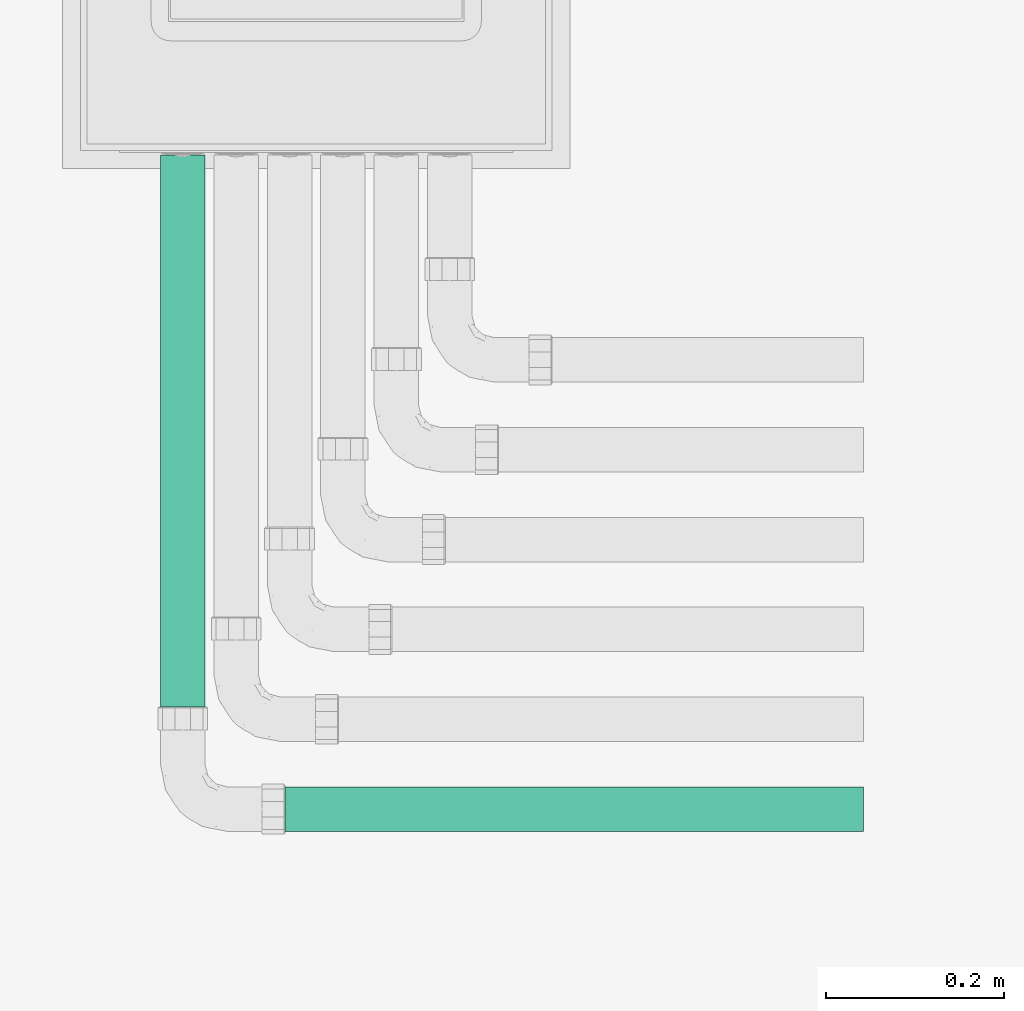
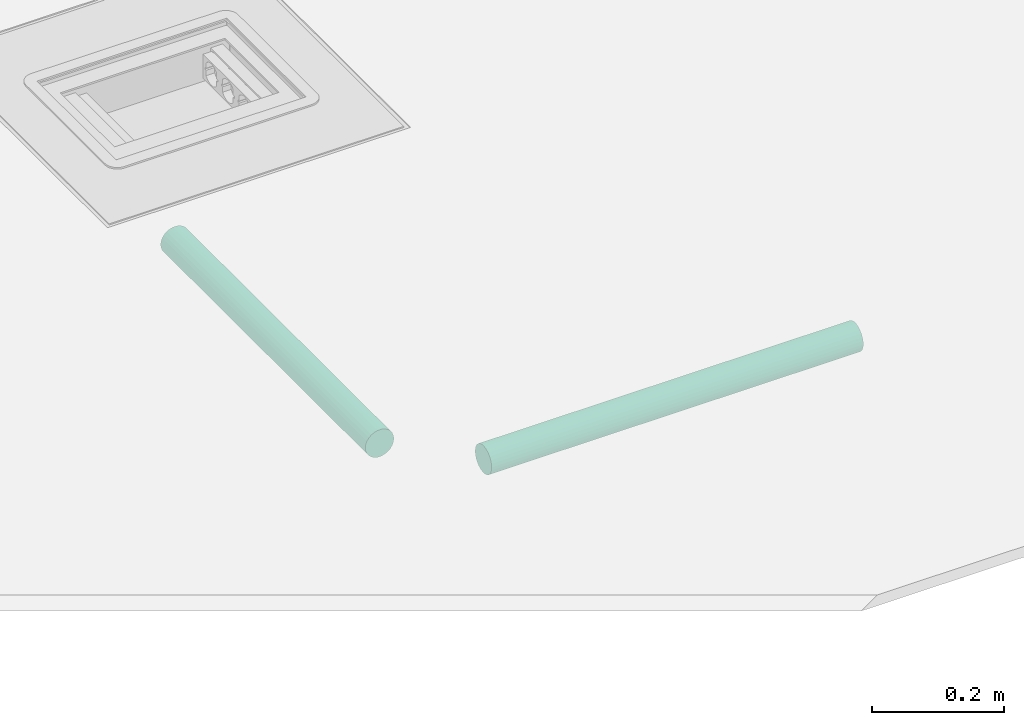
# One storey, part 9 of 87: 2 flow segments.
"""IFC2X3 building model written with IfcOpenShell, lengths in millimetres."""

from ifc_helpers import new_model, entity, si_unit, converted_unit, derived_unit, direction, frame, frame_2d, origin, place, context, subcontext, project, spatial, circle, extrude, type_object, element, save


model = new_model("IFC2X3")

# Units and contexts
model_context = context("Model", 3, precision=0.01, world=origin(), true_north=direction((6.12303176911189e-17, 1.0)))
body_context = subcontext(model_context, "Body", "Model", "MODEL_VIEW")
ifc_project = project(units=[si_unit("LENGTHUNIT", "METRE", prefix="MILLI"), si_unit("AREAUNIT", "SQUARE_METRE"), si_unit("VOLUMEUNIT", "CUBIC_METRE"), converted_unit("PLANEANGLEUNIT", "DEGREE", entity("IfcRatioMeasure", 0.0174532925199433), si_unit("PLANEANGLEUNIT", "RADIAN"), dimensions=[0, 0, 0, 0, 0, 0, 0]), si_unit("MASSUNIT", "GRAM", prefix="KILO"), derived_unit("MASSDENSITYUNIT", [(si_unit("MASSUNIT", "GRAM", prefix="KILO"), 1), (si_unit("LENGTHUNIT", "METRE"), -3)]), si_unit("TIMEUNIT", "SECOND"), si_unit("FREQUENCYUNIT", "HERTZ"), si_unit("THERMODYNAMICTEMPERATUREUNIT", "DEGREE_CELSIUS"), derived_unit("THERMALTRANSMITTANCEUNIT", [(si_unit("MASSUNIT", "GRAM", prefix="KILO"), 1), (si_unit("THERMODYNAMICTEMPERATUREUNIT", "KELVIN"), -1), (si_unit("TIMEUNIT", "SECOND"), -3)]), derived_unit("VOLUMETRICFLOWRATEUNIT", [(si_unit("LENGTHUNIT", "METRE"), 3), (si_unit("TIMEUNIT", "SECOND"), -1)]), si_unit("ELECTRICCURRENTUNIT", "AMPERE"), si_unit("ELECTRICVOLTAGEUNIT", "VOLT"), si_unit("POWERUNIT", "WATT"), si_unit("FORCEUNIT", "NEWTON", prefix="KILO"), si_unit("ILLUMINANCEUNIT", "LUX"), si_unit("LUMINOUSFLUXUNIT", "LUMEN"), si_unit("LUMINOUSINTENSITYUNIT", "CANDELA"), derived_unit("USERDEFINED", [(si_unit("MASSUNIT", "GRAM", prefix="KILO"), -1), (si_unit("LENGTHUNIT", "METRE"), -2), (si_unit("TIMEUNIT", "SECOND"), 3), (si_unit("LUMINOUSFLUXUNIT", "LUMEN"), 1)]), derived_unit("LINEARVELOCITYUNIT", [(si_unit("LENGTHUNIT", "METRE"), 1), (si_unit("TIMEUNIT", "SECOND"), -1)]), si_unit("PRESSUREUNIT", "PASCAL"), derived_unit("USERDEFINED", [(si_unit("LENGTHUNIT", "METRE"), -2), (si_unit("MASSUNIT", "GRAM", prefix="KILO"), 1), (si_unit("TIMEUNIT", "SECOND"), -2)])], contexts=[model_context])

# Site, building, storey
site_placement = place(None, origin())
site = spatial("IfcSite", under=ifc_project, at=site_placement, Name="Default", CompositionType="ELEMENT")
building_placement = place(site_placement, origin())
building = spatial("IfcBuilding", under=site, at=building_placement, Name="Наименование здания", CompositionType="ELEMENT")
storey_placement = place(building_placement, origin())
storey = spatial("IfcBuildingStorey", under=building, at=storey_placement, Name="Этаж 01", CompositionType="ELEMENT", Elevation=0.0)

# Flow segments
cable_carrier_segment_type = type_object("IfcCableCarrierSegmentType", Name="Короб с соединительными деталями:ADSK_Труба водогазопроводная_Стальная", PredefinedType="CONDUITSEGMENT")
flow_segment_1_placement = place(storey_placement, origin())
element("IfcFlowSegment", 1, at=flow_segment_1_placement, inside=storey, type_object=cable_carrier_segment_type, Name="Короб с соединительными деталями:ADSK_Труба водогазопроводная_Стальная", ObjectType="Короб с соединительными деталями:ADSK_Труба водогазопроводная_Стальная", context=body_context, shape_type="SweptSolid", body=[
    extrude(circle(Radius=25.0, at=frame_2d((-8.66293703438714e-12, 8.88289442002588e-13), x_axis=(1.0, 0.0))), frame((-16965.2403415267, 5834.36678153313, -59.5000000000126), z_axis=(0.0, 1.0, 0.0), x_axis=(-1.0, 0.0, 0.0)), (0.0, 0.0, 1.0), 620.000000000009),
])
flow_segment_2_placement = place(storey_placement, origin())
element("IfcFlowSegment", 2, at=flow_segment_2_placement, inside=storey, type_object=cable_carrier_segment_type, Name="Короб с соединительными деталями:ADSK_Труба водогазопроводная_Стальная", ObjectType="Короб с соединительными деталями:ADSK_Труба водогазопроводная_Стальная", context=body_context, shape_type="SweptSolid", body=[
    extrude(circle(Radius=25.0, at=frame_2d((0.0, -3.38395977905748e-14), x_axis=(1.0, 0.0))), frame((-16850.2403415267, 5719.36678153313, -59.5000000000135), z_axis=(1.0, 0.0, 0.0), x_axis=(0.0, -1.0, 0.0)), (0.0, 0.0, 1.0), 650.000000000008),
])

save(model, "model.ifc")
